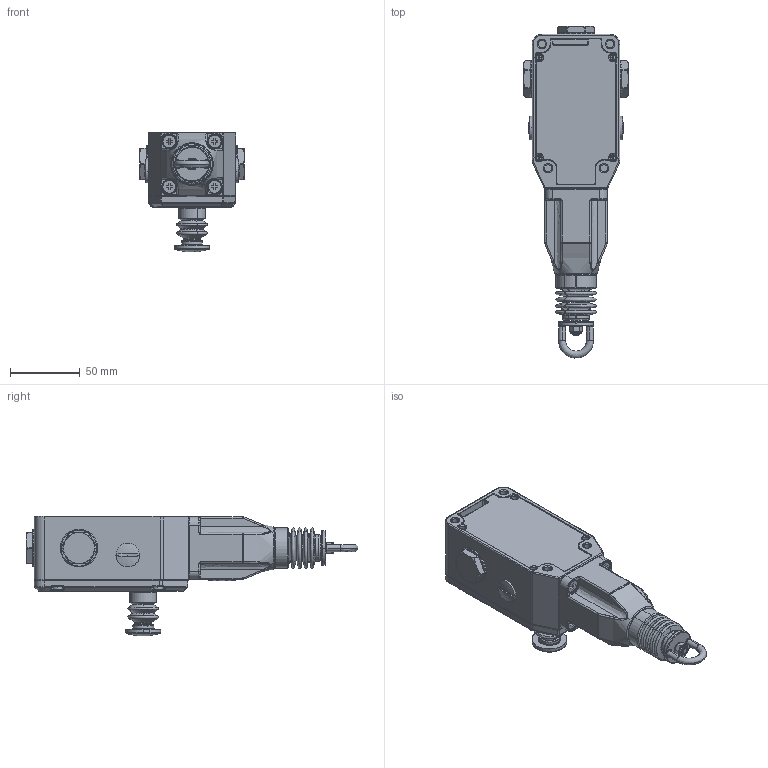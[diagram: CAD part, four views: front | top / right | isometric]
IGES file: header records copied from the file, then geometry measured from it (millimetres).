
Start section: SolidWorks IGES file using analytic representation for surfaces
Global section: file name: Q:\GROUPS\WAU_SBC_ITEC\ENGENHARIA\FERRAMENTARIA\Leandro Silva\PROJETOS EM ANDAMENTO E CLAIM - 2014\EM ANDAMENTO - DESENHOS CHAVES - LEANDRO\CEC-ML...AE26\CEC-ML...AE26.IGS; native system: SolidWorks 2015; preprocessor: SolidWorks 2015; author: silval; date: 151027.140638; units: millimetre
Bounding box: 75 x 237.97 x 86 mm (x, y, z)
Surface area: 58366.6 mm2 (no closed solid volume)
Topology: 0 solids, 0 shells, 914 faces, 8481 edges, 8457 vertices
Faces by surface type: bspline 500, revolution 414
